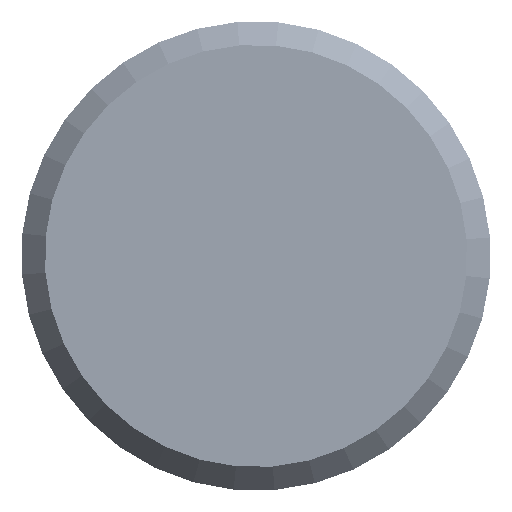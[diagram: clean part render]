
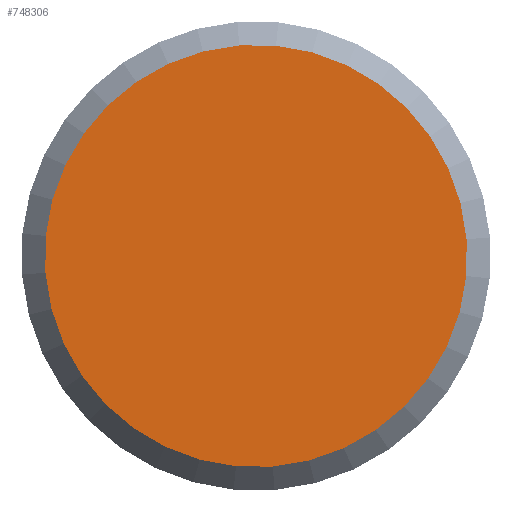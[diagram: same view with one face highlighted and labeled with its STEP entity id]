
A CAD part, front view. The second image highlights one B-rep face of the part: STEP entity #748306.
In plain terms, the highlighted planar face has unit normal (0, -1, 0).
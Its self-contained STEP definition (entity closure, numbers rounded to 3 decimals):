
#39828 = AXIS2_PLACEMENT_3D ( 'NONE', #58577, #54199, #376451 ) ;
#54199 = DIRECTION ( 'NONE',  ( 0., 1., 0. ) ) ;
#58577 = CARTESIAN_POINT ( 'NONE',  ( 0., 0., 0. ) ) ;
#131771 = ORIENTED_EDGE ( 'NONE', *, *, #1175007, .F. ) ;
#149034 = CARTESIAN_POINT ( 'NONE',  ( 720., 0., 0. ) ) ;
#310110 = CARTESIAN_POINT ( 'NONE',  ( -720., 0., 0. ) ) ;
#355149 = DIRECTION ( 'NONE',  ( 0., 1., 0. ) ) ;
#376451 = DIRECTION ( 'NONE',  ( -1., 0., 0. ) ) ;
#472248 = EDGE_LOOP ( 'NONE', ( #1083608, #131771 ) ) ;
#531491 = FACE_OUTER_BOUND ( 'NONE', #472248, .T. ) ;
#592053 = AXIS2_PLACEMENT_3D ( 'NONE', #644410, #631266, #1249206 ) ;
#631266 = DIRECTION ( 'NONE',  ( 0., 1., 0. ) ) ;
#644410 = CARTESIAN_POINT ( 'NONE',  ( 0., 0., 0. ) ) ;
#713003 = VERTEX_POINT ( 'NONE', #741211 ) ;
#718462 = VERTEX_POINT ( 'NONE', #310110 ) ;
#741211 = CARTESIAN_POINT ( 'NONE',  ( 720., 0., 0. ) ) ;
#748306 = ADVANCED_FACE ( 'NONE', ( #531491 ), #964223, .F. ) ;
#846436 = CIRCLE ( 'NONE', #39828, 720. ) ;
#865890 = CIRCLE ( 'NONE', #592053, 720. ) ;
#964223 = PLANE ( 'NONE',  #1013884 ) ;
#1013884 = AXIS2_PLACEMENT_3D ( 'NONE', #149034, #355149, #1277406 ) ;
#1083608 = ORIENTED_EDGE ( 'NONE', *, *, #1303174, .F. ) ;
#1175007 = EDGE_CURVE ( 'NONE', #713003, #718462, #846436, .T. ) ;
#1249206 = DIRECTION ( 'NONE',  ( -1., 0., 0. ) ) ;
#1277406 = DIRECTION ( 'NONE',  ( -1., 0., 0. ) ) ;
#1303174 = EDGE_CURVE ( 'NONE', #718462, #713003, #865890, .T. ) ;
